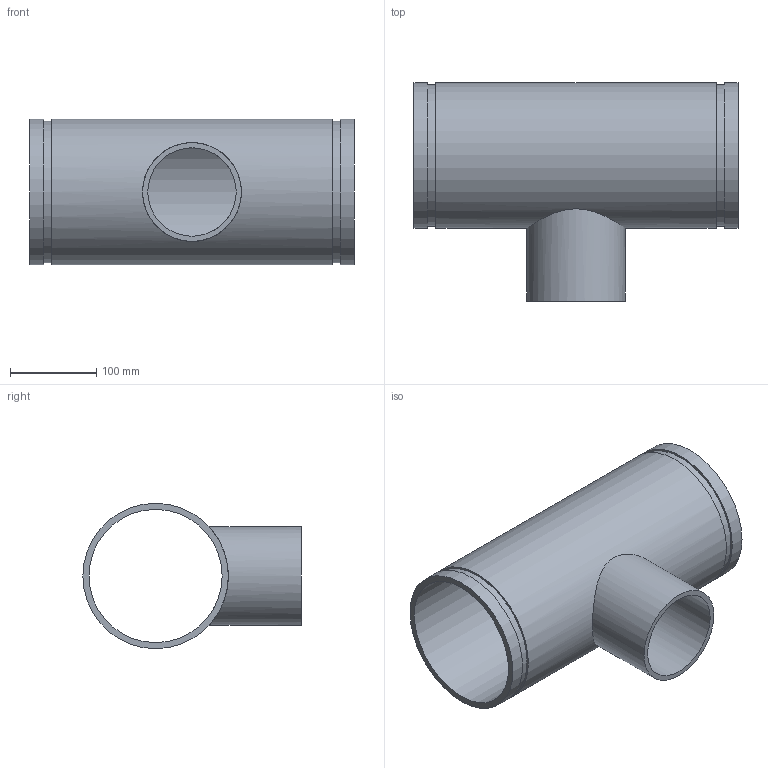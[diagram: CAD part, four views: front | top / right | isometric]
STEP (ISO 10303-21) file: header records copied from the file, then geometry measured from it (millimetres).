
FILE_DESCRIPTION(/* description */ ('VIC REDUCING TEE No 29T FFT (OGSxMPT)','CAx-IF Rec.Pracs.---Representation and Presentation of Product Manufacturing Information (PMI)---4.0---2014-10-13'),/* implementation_level */ '2;1');
FILE_NAME(/* name */ 'C:\Users\kkamble\AppData\Roaming\Autodesk\ApplicationPlugins\Back Up\Victaulic_IPS_Tee Reducing_No 29T FFT (OGSxMPT)\Victaulic_IPS_Tee Reducing_No 29T FFT (OGSxMPT)_06.0x04.0 (150x100).stp',/* time_stamp */ '2020-09-16T22:38:38+05:00',/* author */ ('CORINNE GRAY'),/* organization */ ('Victaulic'),/* preprocessor_version */ 'ST-DEVELOPER v17.2',/* originating_system */ 'Autodesk Inventor 2019',/* authorisation */ '');
FILE_SCHEMA (('AP242_MANAGED_MODEL_BASED_3D_ENGINEERING_MIM_LF { 1 0 10303 442 1 1 4 }'));
Length unit declared in the file: inch
Products named in the file (1): 29 FFT-06.0x04.0
Bounding box: 374.9 x 252.54 x 168.28 mm (x, y, z)
Volume: 1458810.2 mm3; surface area: 439865.6 mm2
Topology: 1 solids, 1 shells, 15 faces, 32 edges, 24 vertices
Faces by surface type: cylinder 8, plane 7
Full cylindrical faces by diameter (mm): 102.26 x1, 114.3 x1, 154.051 x1, 163.957 x2, 168.275 x3
Entity records: 709 total; most frequent: CARTESIAN_POINT 221, DIRECTION 106, ORIENTED_EDGE 64, AXIS2_PLACEMENT_3D 49, EDGE_CURVE 32, EDGE_LOOP 24, VERTEX_POINT 24, CIRCLE 20
